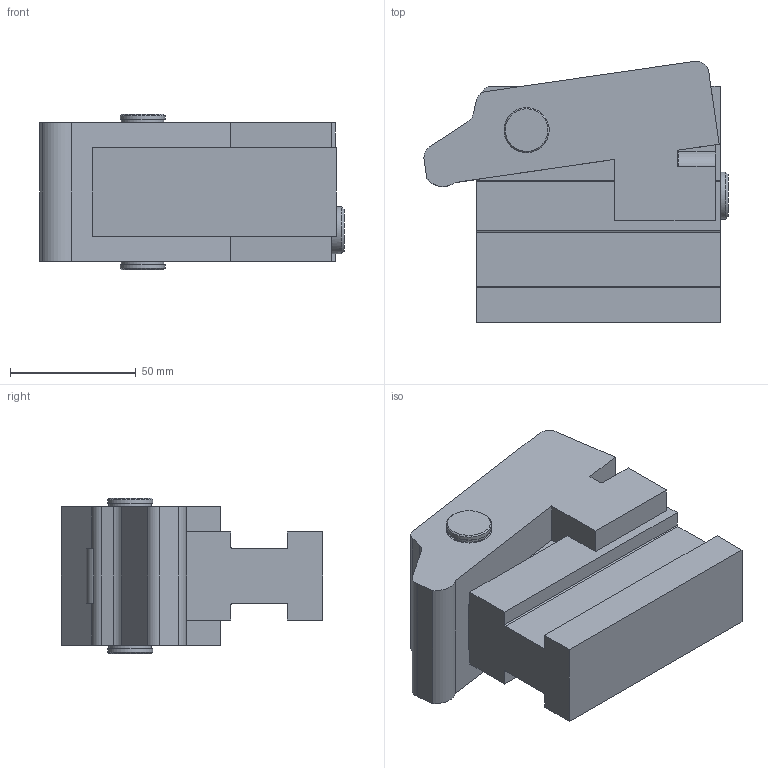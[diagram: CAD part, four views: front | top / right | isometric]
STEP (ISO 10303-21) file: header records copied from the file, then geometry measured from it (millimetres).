
FILE_DESCRIPTION(/* description */ (''),/* implementation_level */ '2;1');
FILE_NAME(/* name */ 'P:\Standard products\2. QDC Clamping Systems\11. ELY - Rocker Clamp\ELY Standard range\3d step files\ELY20_S (11-08-22).stp',/* time_stamp */ '2022-08-11T15:18:39+02:00',/* author */ ('schothorsth'),/* organization */ (''),/* preprocessor_version */ 'ST-DEVELOPER v17.2',/* originating_system */ 'Autodesk Inventor 2019',/* authorisation */ '');
FILE_SCHEMA (('AUTOMOTIVE_DESIGN { 1 0 10303 214 3 1 1 }'));
Length unit declared in the file: millimetre
Products named in the file (1): ELY20_S (11-08-22)
Bounding box: 120.91 x 103.9 x 61.8 mm (x, y, z)
Volume: 408828.2 mm3; surface area: 45560.9 mm2
Topology: 1 solids, 1 shells, 77 faces, 213 edges, 144 vertices
Faces by surface type: plane 50, cylinder 23, cone 3, torus 1
Full cylindrical faces by diameter (mm): 17 x2, 17.95 x4, 18.8 x1
Entity records: 2634 total; most frequent: CARTESIAN_POINT 435, DIRECTION 434, ORIENTED_EDGE 426, EDGE_CURVE 213, LINE 148, VECTOR 148, VERTEX_POINT 144, AXIS2_PLACEMENT_3D 143
